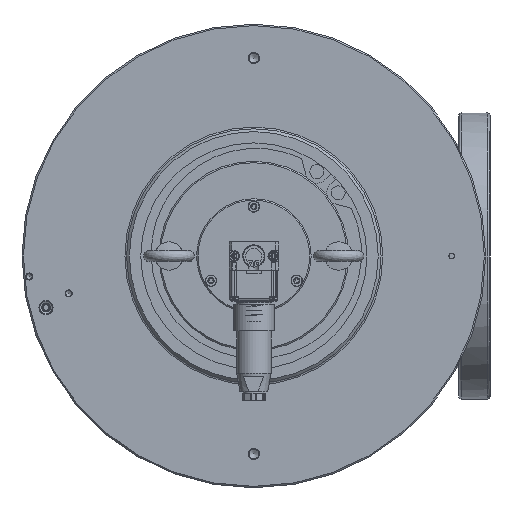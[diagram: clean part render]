
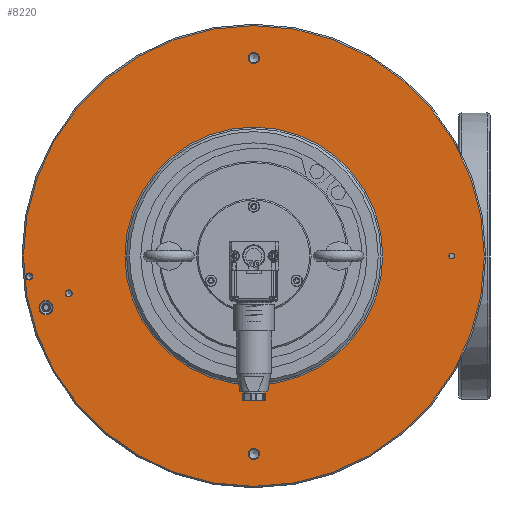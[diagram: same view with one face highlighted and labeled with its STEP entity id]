
A CAD part, left-side view. The second image highlights one B-rep face of the part: STEP entity #8220.
In plain terms, the highlighted planar face has unit normal (-1, 0, 0) as drawn and (0, 1, 0) by its records, which use the part's own axes.
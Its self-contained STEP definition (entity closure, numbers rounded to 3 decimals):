
#7268=FACE_BOUND('',#10337,.T.);
#7269=FACE_BOUND('',#10338,.T.);
#7270=FACE_BOUND('',#10339,.T.);
#7271=FACE_BOUND('',#10340,.T.);
#7272=FACE_BOUND('',#10341,.T.);
#7273=FACE_BOUND('',#10342,.T.);
#7274=FACE_BOUND('',#10343,.T.);
#7275=FACE_BOUND('',#10344,.T.);
#8220=ADVANCED_FACE('',(#7268,#7269,#7270,#7271,#7272,#7273,#7274,#7275),
#9036,.T.);
#9036=PLANE('',#19535);
#10337=EDGE_LOOP('',(#12092));
#10338=EDGE_LOOP('',(#12093));
#10339=EDGE_LOOP('',(#12094));
#10340=EDGE_LOOP('',(#12095));
#10341=EDGE_LOOP('',(#12096));
#10342=EDGE_LOOP('',(#12097));
#10343=EDGE_LOOP('',(#12098));
#10344=EDGE_LOOP('',(#12099));
#12092=ORIENTED_EDGE('',*,*,#16872,.F.);
#12093=ORIENTED_EDGE('',*,*,#16873,.T.);
#12094=ORIENTED_EDGE('',*,*,#16874,.T.);
#12095=ORIENTED_EDGE('',*,*,#16875,.F.);
#12096=ORIENTED_EDGE('',*,*,#16876,.T.);
#12097=ORIENTED_EDGE('',*,*,#16877,.T.);
#12098=ORIENTED_EDGE('',*,*,#16878,.T.);
#12099=ORIENTED_EDGE('',*,*,#16879,.T.);
#15437=VERTEX_POINT('',#26337);
#15438=VERTEX_POINT('',#26339);
#15439=VERTEX_POINT('',#26341);
#15440=VERTEX_POINT('',#26343);
#15441=VERTEX_POINT('',#26345);
#15442=VERTEX_POINT('',#26347);
#15443=VERTEX_POINT('',#26349);
#15444=VERTEX_POINT('',#26351);
#16872=EDGE_CURVE('',#15437,#15437,#18605,.T.);
#16873=EDGE_CURVE('',#15438,#15438,#18606,.T.);
#16874=EDGE_CURVE('',#15439,#15439,#18607,.T.);
#16875=EDGE_CURVE('',#15440,#15440,#18608,.T.);
#16876=EDGE_CURVE('',#15441,#15441,#18609,.T.);
#16877=EDGE_CURVE('',#15442,#15442,#18610,.T.);
#16878=EDGE_CURVE('',#15443,#15443,#18611,.T.);
#16879=EDGE_CURVE('',#15444,#15444,#18612,.T.);
#18605=CIRCLE('',#19527,2.);
#18606=CIRCLE('',#19528,4.);
#18607=CIRCLE('',#19529,2.5);
#18608=CIRCLE('',#19530,163.);
#18609=CIRCLE('',#19531,91.2);
#18610=CIRCLE('',#19532,5.);
#18611=CIRCLE('',#19533,2.5);
#18612=CIRCLE('',#19534,4.);
#19527=AXIS2_PLACEMENT_3D('',#26336,#21661,#21662);
#19528=AXIS2_PLACEMENT_3D('',#26338,#21663,#21664);
#19529=AXIS2_PLACEMENT_3D('',#26340,#21665,#21666);
#19530=AXIS2_PLACEMENT_3D('',#26342,#21667,#21668);
#19531=AXIS2_PLACEMENT_3D('',#26344,#21669,#21670);
#19532=AXIS2_PLACEMENT_3D('',#26346,#21671,#21672);
#19533=AXIS2_PLACEMENT_3D('',#26348,#21673,#21674);
#19534=AXIS2_PLACEMENT_3D('',#26350,#21675,#21676);
#19535=AXIS2_PLACEMENT_3D('',#26352,#21677,#21678);
#21661=DIRECTION('',(0.,1.,0.));
#21662=DIRECTION('',(0.,0.,1.));
#21663=DIRECTION('',(0.,-1.,0.));
#21664=DIRECTION('',(1.,0.,0.));
#21665=DIRECTION('',(0.,-1.,0.));
#21666=DIRECTION('',(0.,0.,-1.));
#21667=DIRECTION('',(0.,-1.,0.));
#21668=DIRECTION('',(0.,0.,-1.));
#21669=DIRECTION('',(0.,-1.,0.));
#21670=DIRECTION('',(0.,0.,-1.));
#21671=DIRECTION('',(0.,-1.,0.));
#21672=DIRECTION('',(0.,0.,-1.));
#21673=DIRECTION('',(0.,-1.,0.));
#21674=DIRECTION('',(0.,0.,-1.));
#21675=DIRECTION('',(0.,-1.,0.));
#21676=DIRECTION('',(1.,0.,0.));
#21677=DIRECTION('',(0.,1.,0.));
#21678=DIRECTION('',(0.,0.,1.));
#26336=CARTESIAN_POINT('',(-140.,141.,0.));
#26337=CARTESIAN_POINT('',(-140.,141.,2.));
#26338=CARTESIAN_POINT('',(0.,141.,140.));
#26339=CARTESIAN_POINT('',(4.,141.,140.));
#26340=CARTESIAN_POINT('',(159.,141.,-14.5));
#26341=CARTESIAN_POINT('',(159.,141.,-17.));
#26342=CARTESIAN_POINT('',(0.,141.,0.));
#26343=CARTESIAN_POINT('',(0.,141.,-163.));
#26344=CARTESIAN_POINT('',(0.,141.,0.));
#26345=CARTESIAN_POINT('',(0.,141.,-91.2));
#26346=CARTESIAN_POINT('',(147.,141.,-36.5));
#26347=CARTESIAN_POINT('',(147.,141.,-41.5));
#26348=CARTESIAN_POINT('',(131.,141.,-26.5));
#26349=CARTESIAN_POINT('',(131.,141.,-29.));
#26350=CARTESIAN_POINT('',(0.,141.,-140.));
#26351=CARTESIAN_POINT('',(4.,141.,-140.));
#26352=CARTESIAN_POINT('',(163.,141.,0.));
